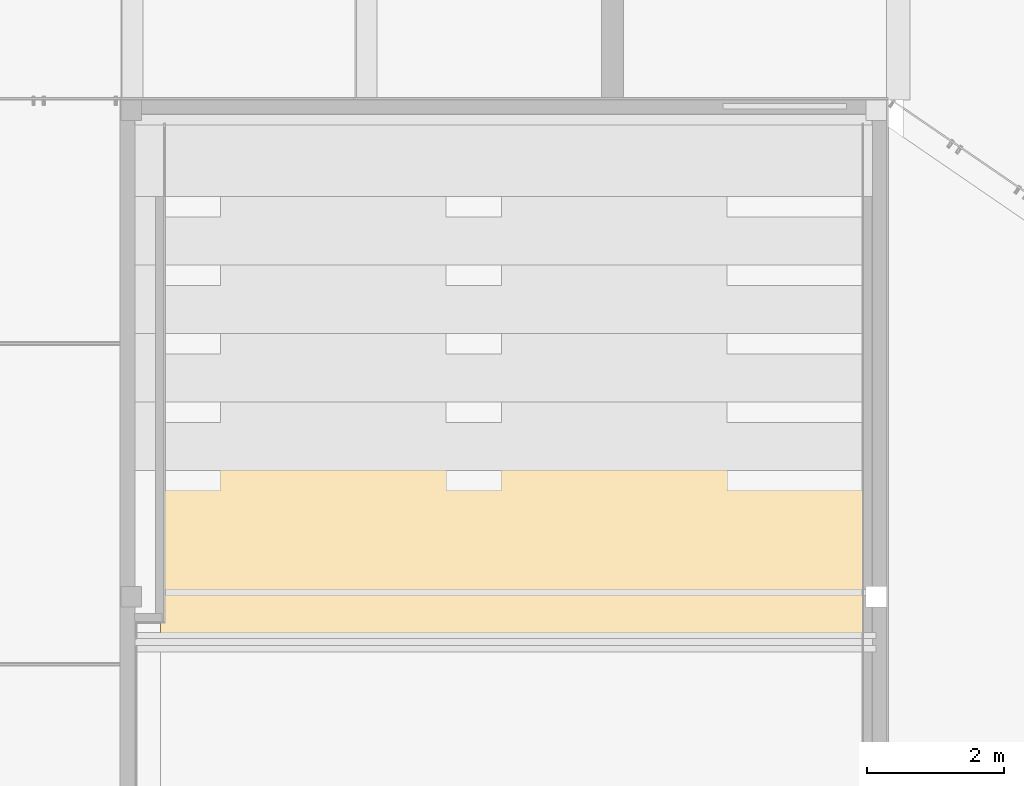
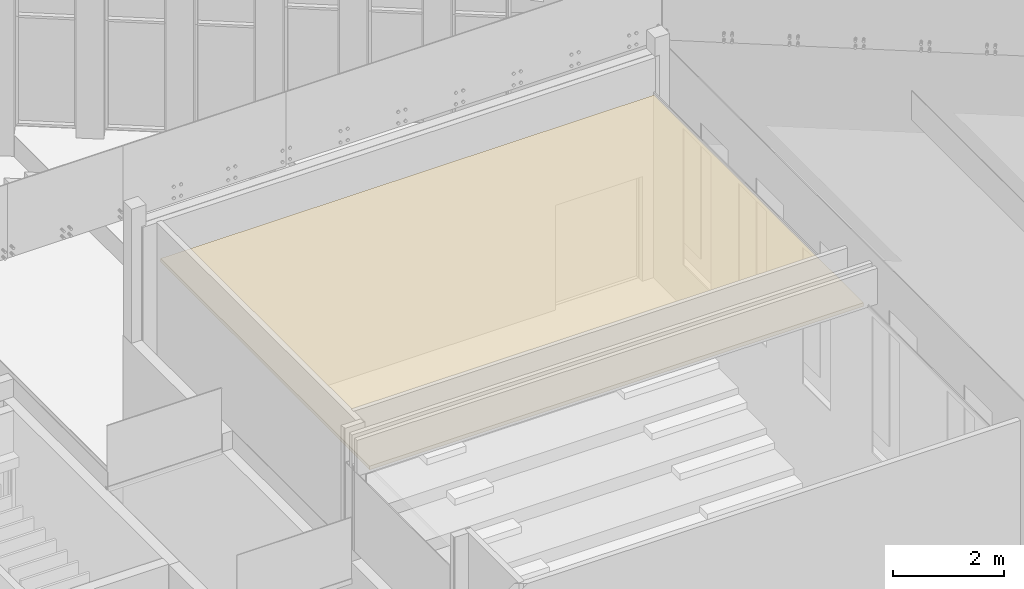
# One storey, part 174 of 246: 1 covering.
"""IFC2X3 building model written with IfcOpenShell, lengths in millimetres."""

import ifcopenshell
import ifcopenshell.guid

model = None  # the IFC model being written
_history = None  # IfcOwnerHistory: only IFC2X3 demands one
_inside = {}  # id of a spatial element -> (the spatial element, [elements in it])
_under = {}  # id of a project, library or spatial element -> (it, [spatial elements below it])
_declared = {}  # id of a project -> (the project, [libraries it declares])
_typed = {}  # id of a type object -> (the type object, [elements of that type])
_made_of = {}  # id of a material, layer set ... -> (it, [elements and type objects made of it])


def new_model(schema):
    """Start an empty IFC model of exactly this schema.

    Asked for "IFC4X3", IfcOpenShell would pick the latest addendum, in which some entities
    have other attributes; the version numbers below select the first issue.
    IFC2X3 requires an IfcOwnerHistory on every rooted entity: one is made here for all.
    """
    global model, _history
    if schema == "IFC4X3":
        model = ifcopenshell.file(schema_version=(4, 3, 0, 0))
    else:
        model = ifcopenshell.file(schema=schema)
    _inside.clear()
    _under.clear()
    _declared.clear()
    _typed.clear()
    _made_of.clear()
    _history = None
    if model.schema == "IFC2X3":
        org = make("IfcOrganization", Name="unknown")
        user = make(
            "IfcPersonAndOrganization",
            ThePerson=make("IfcPerson", FamilyName="unknown"),
            TheOrganization=org,
        )
        app = make(
            "IfcApplication",
            ApplicationDeveloper=org,
            Version="unknown",
            ApplicationFullName="unknown",
            ApplicationIdentifier="unknown",
        )
        _history = make(
            "IfcOwnerHistory",
            OwningUser=user,
            OwningApplication=app,
            ChangeAction="ADDED",
            CreationDate=0,
        )
    return model


def make(cls, **values):
    """One entity of the class cls with the attributes given. An attribute that is None is left unset."""
    return model.create_entity(
        cls, **{name: value for name, value in values.items() if value is not None}
    )


def entity(cls, *values):
    """Any entity or typed value of the class cls, its attributes in the order of the schema. None: left unset."""
    e = model.create_entity(cls)
    for i, value in enumerate(values):
        if value is not None:
            e[i] = value
    return e


def rooted(cls, **values):
    """An entity with a GlobalId (a new one), such as an element, a storey or a relation."""
    return make(cls, GlobalId=ifcopenshell.guid.new(), OwnerHistory=_history, **values)


def si_unit(unit_type, name, prefix=None):
    """IfcSIUnit, for example si_unit("LENGTHUNIT", "METRE", prefix="MILLI")."""
    return make("IfcSIUnit", UnitType=unit_type, Prefix=prefix, Name=name)


def converted_unit(unit_type, name, factor, base, dimensions=None, offset=None):
    """IfcConversionBasedUnit, such as the inch: factor (a typed value) times the base unit."""
    return make(
        "IfcConversionBasedUnit"
        if offset is None
        else "IfcConversionBasedUnitWithOffset",
        ConversionOffset=offset,
        Dimensions=None
        if dimensions is None
        else entity("IfcDimensionalExponents", *dimensions),
        UnitType=unit_type,
        Name=name,
        ConversionFactor=make(
            "IfcMeasureWithUnit", ValueComponent=factor, UnitComponent=base
        ),
    )


def derived_unit(unit_type, elements):
    """IfcDerivedUnit: a product of units, each with its exponent."""
    return make(
        "IfcDerivedUnit",
        Elements=[
            make("IfcDerivedUnitElement", Unit=unit, Exponent=power)
            for unit, power in elements
        ],
        UnitType=unit_type,
    )


def money_unit(currency):
    """IfcMonetaryUnit."""
    return make("IfcMonetaryUnit", Currency=currency)


def assignment(units):
    """IfcUnitAssignment: the units of a project."""
    return None if units is None else make("IfcUnitAssignment", Units=units)


def point(xyz):
    """IfcCartesianPoint."""
    return None if xyz is None else make("IfcCartesianPoint", Coordinates=xyz)


def direction(xyz):
    """IfcDirection."""
    return None if xyz is None else make("IfcDirection", DirectionRatios=xyz)


def frame(location, z_axis=None, x_axis=None):
    """IfcAxis2Placement3D, a coordinate frame: its origin and axes. An axis left out is left unset."""
    return make(
        "IfcAxis2Placement3D",
        Location=point(location),
        Axis=direction(z_axis),
        RefDirection=direction(x_axis),
    )


def origin_with_axes():
    """The frame at (0, 0, 0) with the z axis (0, 0, 1) and the x axis (1, 0, 0) written out."""
    return frame((0.0, 0.0, 0.0), z_axis=(0.0, 0.0, 1.0), x_axis=(1.0, 0.0, 0.0))


def place(relative_to, where):
    """IfcLocalPlacement: puts the frame where relative to a parent placement (None: the world)."""
    return make(
        "IfcLocalPlacement", PlacementRelTo=relative_to, RelativePlacement=where
    )


def context(
    kind, dimensions, precision=None, world=None, true_north=None, identifier=None
):
    """IfcGeometricRepresentationContext, for example the 3D "Model" context."""
    return make(
        "IfcGeometricRepresentationContext",
        ContextIdentifier=identifier,
        ContextType=kind,
        CoordinateSpaceDimension=dimensions,
        Precision=precision,
        WorldCoordinateSystem=world,
        TrueNorth=true_north,
    )


def subcontext(parent, identifier, kind, view, scale=None):
    """IfcGeometricRepresentationSubContext, for example "Body" below "Model"."""
    return make(
        "IfcGeometricRepresentationSubContext",
        ContextIdentifier=identifier,
        ContextType=kind,
        ParentContext=parent,
        TargetScale=scale,
        TargetView=view,
    )


def project(units=None, contexts=None):
    """IfcProject with its units and contexts."""
    return rooted(
        "IfcProject",
        Name="project",
        RepresentationContexts=contexts,
        UnitsInContext=assignment(units),
    )


def spatial(cls, under=None, at=None, **own):
    """A site, building, storey or space (cls), placed at a placement, below another one or the project."""
    s = rooted(cls, ObjectPlacement=at, **own)
    if under is not None:
        _under.setdefault(under.id(), (under, []))[1].append(s)
    return s


def faces_of(points, faces, orient=None, outer=None):
    """IfcFace entities. A face is a list of loops; a loop is a list of indices into points, from 0.

    orient and outer hold one flag for each loop. By default every Orientation is true, the
    first loop of a face is its IfcFaceOuterBound and the others are IfcFaceBound.
    """
    made = []
    for i, loops in enumerate(faces):
        bounds = []
        for j, loop in enumerate(loops):
            is_outer = j == 0 if outer is None else outer[i][j]
            bounds.append(
                make(
                    "IfcFaceOuterBound" if is_outer else "IfcFaceBound",
                    Bound=make("IfcPolyLoop", Polygon=[points[k] for k in loop]),
                    Orientation=True if orient is None else orient[i][j],
                )
            )
        made.append(make("IfcFace", Bounds=bounds))
    return made


def faceted_brep(points, faces, orient=None, outer=None, voids=None):
    """IfcFacetedBrep: a solid bounded by flat faces; with voids (closed shells), ...WithVoids."""
    shared = [point(p) for p in points]
    hull = make("IfcClosedShell", CfsFaces=faces_of(shared, faces, orient, outer))
    if voids is None:
        return make("IfcFacetedBrep", Outer=hull)
    return make(
        "IfcFacetedBrepWithVoids",
        Outer=hull,
        Voids=[
            make(cls, CfsFaces=faces_of(shared, fs, o, b)) for cls, fs, o, b in voids
        ],
    )


def shape(context_of_items, identifier, shape_type, items):
    """IfcShapeRepresentation: the items that make up one representation, for example the "Body"."""
    return make(
        "IfcShapeRepresentation",
        ContextOfItems=context_of_items,
        RepresentationIdentifier=identifier,
        RepresentationType=shape_type,
        Items=items,
    )


def material(Name=None, Category=None):
    """IfcMaterial."""
    return make("IfcMaterial", Name=Name, Category=Category)


def material_list(materials):
    """IfcMaterialList."""
    return make("IfcMaterialList", Materials=materials)


def made_of(thing, what):
    """Note that an element or type object is made of a material, layer set ...; save() writes the relation."""
    if what is not None:
        _made_of.setdefault(what.id(), (what, []))[1].append(thing)
    return thing


def type_object(cls, material=None, **own):
    """A type object (cls), such as IfcWallType, which elements share."""
    return made_of(rooted(cls, **own), material)


def element(
    cls,
    number,
    at=None,
    inside=None,
    cuts=None,
    type_object=None,
    material=None,
    context=None,
    identifier="Body",
    shape_type=None,
    held_by="IfcProductDefinitionShape",
    body=None,
    shapes=None,
    **own,
):
    """One element of the class cls, such as IfcWall. Its Tag is "e" and its number.

    at: its placement. inside: the storey or other place that contains it. cuts: it is an
    opening in that element (IfcRelVoidsElement). A single representation is given by context,
    identifier, shape_type and body (its items); several are given by shapes. held_by: the class
    of the entity that holds the representations. save() writes the other relations.
    """
    e = rooted(cls, Tag="e%d" % number, ObjectPlacement=at, **own)
    if body is not None:
        shapes = [shape(context, identifier, shape_type, body)]
    if shapes is not None:
        e.Representation = make(held_by, Representations=shapes)
    if inside is not None:
        _inside.setdefault(inside.id(), (inside, []))[1].append(e)
    if cuts is not None:
        rooted(
            "IfcRelVoidsElement", RelatingBuildingElement=cuts, RelatedOpeningElement=e
        )
    if type_object is not None:
        _typed.setdefault(type_object.id(), (type_object, []))[1].append(e)
    return made_of(e, material)


def aggregate(whole, parts):
    """IfcRelAggregates: a whole, such as a stair, and the parts it consists of."""
    return rooted("IfcRelAggregates", RelatingObject=whole, RelatedObjects=parts)


def save(model, path):
    """Write the relations noted so far, then the file.

    IfcRelAggregates (storeys below a building ...), IfcRelContainedInSpatialStructure (elements
    in a storey), IfcRelDefinesByType, IfcRelAssociatesMaterial and IfcRelDeclares: one each for
    every whole, place, type object, material and project.
    """
    for whole, parts in _under.values():
        aggregate(whole, parts)
    for where, things in _inside.values():
        rooted(
            "IfcRelContainedInSpatialStructure",
            RelatedElements=things,
            RelatingStructure=where,
        )
    for kind, things in _typed.values():
        rooted("IfcRelDefinesByType", RelatedObjects=things, RelatingType=kind)
    for what, things in _made_of.values():
        rooted("IfcRelAssociatesMaterial", RelatedObjects=things, RelatingMaterial=what)
    for by, libraries in _declared.values():
        rooted("IfcRelDeclares", RelatingContext=by, RelatedDefinitions=libraries)
    model.write(path)


model = new_model("IFC2X3")

# Units and contexts
model_context = context("Model", 3, precision=0.01, world=origin_with_axes(), true_north=direction((0.0, 1.0)))
body_context = subcontext(model_context, "Body", "Model", "MODEL_VIEW")
ifc_project = project(units=[si_unit("LENGTHUNIT", "METRE", prefix="MILLI"), si_unit("AREAUNIT", "SQUARE_METRE"), si_unit("VOLUMEUNIT", "CUBIC_METRE"), converted_unit("PLANEANGLEUNIT", "DEGREE", entity("IfcPlaneAngleMeasure", 0.0174532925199), si_unit("PLANEANGLEUNIT", "RADIAN"), dimensions=[0, 0, 0, 0, 0, 0, 0]), si_unit("SOLIDANGLEUNIT", "STERADIAN"), money_unit("EUR"), converted_unit("TIMEUNIT", "Year", entity("IfcTimeMeasure", 31556926.0), si_unit("TIMEUNIT", "SECOND"), dimensions=[0, 0, 1, 0, 0, 0, 0]), si_unit("MASSUNIT", "GRAM", prefix="KILO"), si_unit("THERMODYNAMICTEMPERATUREUNIT", "DEGREE_CELSIUS"), si_unit("LUMINOUSINTENSITYUNIT", "LUMEN"), si_unit("ENERGYUNIT", "JOULE", prefix="MEGA"), derived_unit("THERMALCONDUCTANCEUNIT", [(si_unit("POWERUNIT", "WATT"), 1), (si_unit("LENGTHUNIT", "METRE"), -1), (si_unit("THERMODYNAMICTEMPERATUREUNIT", "KELVIN"), -1)]), derived_unit("SPECIFICHEATCAPACITYUNIT", [(si_unit("ENERGYUNIT", "JOULE"), 1), (si_unit("MASSUNIT", "GRAM", prefix="KILO"), -1), (si_unit("THERMODYNAMICTEMPERATUREUNIT", "KELVIN"), -1)]), derived_unit("MASSDENSITYUNIT", [(si_unit("MASSUNIT", "GRAM", prefix="KILO"), 1), (si_unit("VOLUMEUNIT", "CUBIC_METRE"), -1)])], contexts=[model_context])

# Site, building, storey
site_placement = place(None, origin_with_axes())
site = spatial("IfcSite", under=ifc_project, at=site_placement, Name="L.Koidula tn 11b", CompositionType="ELEMENT")
building_placement = place(site_placement, origin_with_axes())
building = spatial("IfcBuilding", under=site, at=building_placement, Name="Rakvere Riigigümnaasium", CompositionType="ELEMENT")
storey_placement = place(building_placement, origin_with_axes())
storey = spatial("IfcBuildingStorey", under=building, at=storey_placement, Name="1.korrus 0,00", CompositionType="ELEMENT", Elevation=0.0)

# Covering
ifc_material_1 = material(Name="mineraalvill+karkass")
ifc_material_2 = material(Name="SKR-02_Kipsplaat")
ifc_material_list = material_list([ifc_material_1, ifc_material_2])
covering_type = type_object("IfcCoveringType", Name="SA-LV-kips 79", PredefinedType="CEILING")
covering_placement = place(storey_placement, frame((57845.0348101, 23635.355488, 5325.0), z_axis=(0.0, 0.0, 1.0), x_axis=(1.0, 0.0, 0.0)))
element("IfcCovering", 1, at=covering_placement, inside=storey, type_object=covering_type, material=ifc_material_list, Name="L-01", PredefinedType="CEILING", context=body_context, shape_type="Brep", body=[
    faceted_brep([(0.0, 7530.10002721, 12.5), (0.0, 7530.10002721, 78.5), (0.0, 0.0, 78.5), (0.0, 0.0, 12.5), (-10265.0348166, 7530.10002721, 12.5), (-10265.0348166, 7530.10002721, 78.5), (-10265.0348166, 0.0, 78.5), (-10265.0348166, 0.0, 12.5)], [[[0, 1, 2, 3]], [[4, 5, 1, 0]], [[2, 1, 5, 6]], [[3, 2, 6, 7]], [[3, 7, 4, 0]], [[7, 6, 5, 4]]]),
    faceted_brep([(0.0, 0.0, 0.0), (0.0, 7530.10002721, 0.0), (0.0, 7530.10002721, 12.5), (0.0, 0.0, 12.5), (-10265.0348166, 0.0, 0.0), (-10265.0348166, 7530.10002721, 0.0), (-10265.0348166, 7530.10002721, 12.5), (-10265.0348166, 0.0, 12.5)], [[[0, 1, 2, 3]], [[0, 4, 5, 1]], [[1, 5, 6, 2]], [[3, 2, 6, 7]], [[4, 0, 3, 7]], [[5, 4, 7, 6]]]),
])

save(model, "model.ifc")
